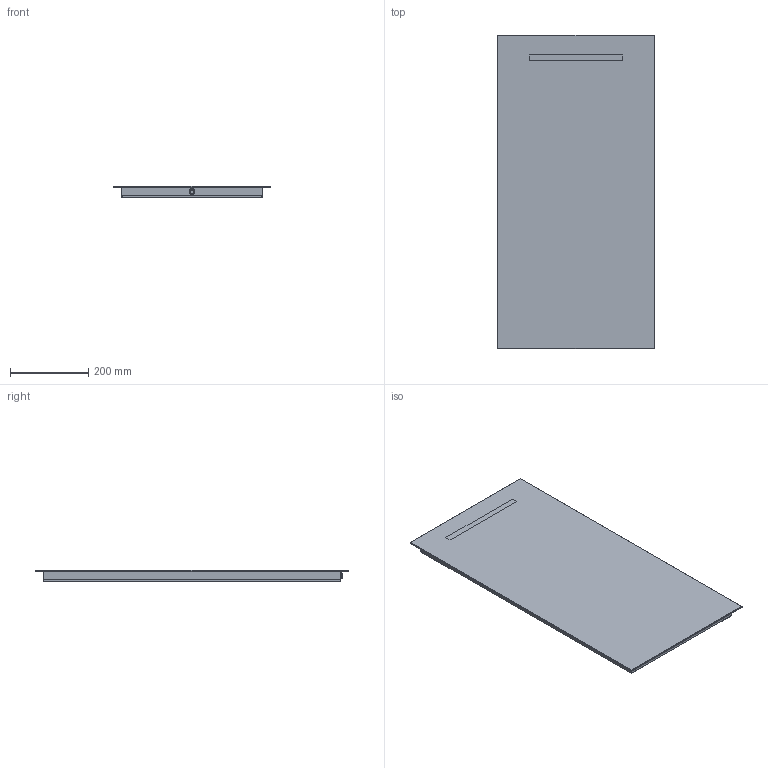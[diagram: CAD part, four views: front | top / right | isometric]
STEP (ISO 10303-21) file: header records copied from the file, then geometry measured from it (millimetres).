
FILE_DESCRIPTION (( 'STEP AP203' ), '1' );
FILE_NAME ('SPIEGEL MODEL 13 40CM.STEP', '2016-07-14T09:44:48', ( '' ), ( '' ), 'SwSTEP 2.0', 'SolidWorks 2016', '' );
FILE_SCHEMA (( 'CONFIG_CONTROL_DESIGN' ));
Length unit declared in the file: millimetre
Products named in the file (1): SPIEGEL MODEL 13 40CM
Bounding box: 400 x 800 x 30 mm (x, y, z)
Volume: 2114024.6 mm3; surface area: 768350.2 mm2
Topology: 2 solids, 2 shells, 69 faces, 148 edges, 90 vertices
Faces by surface type: plane 59, cylinder 8, torus 2
Entity records: 1893 total; most frequent: CARTESIAN_POINT 308, DIRECTION 308, ORIENTED_EDGE 296, EDGE_CURVE 148, VECTOR 128, LINE 128, AXIS2_PLACEMENT_3D 90, VERTEX_POINT 90
